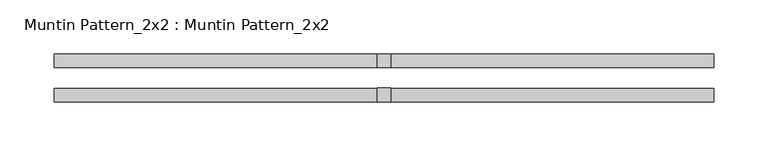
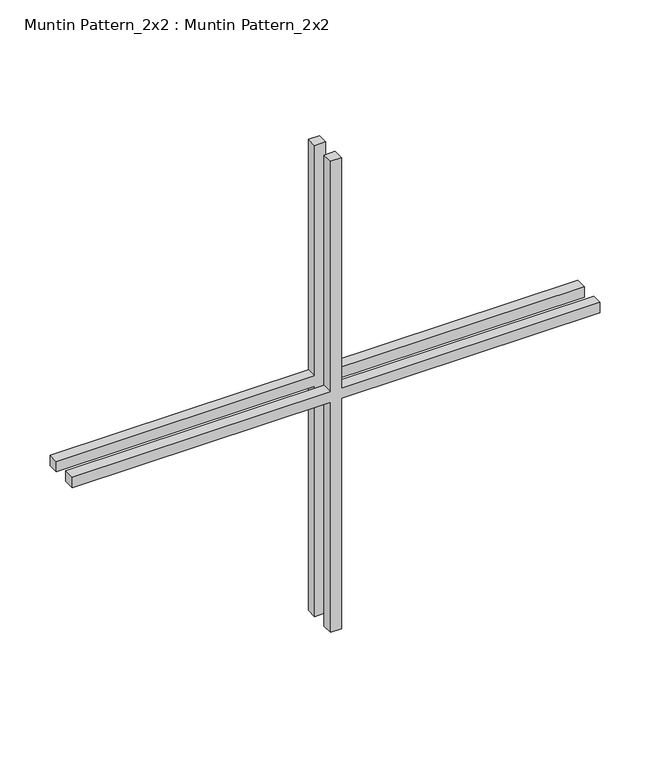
"""IFC4 building model written with IfcOpenShell, lengths in millimetres: proxy geometry, Muntin Pattern_2x2 : Muntin Pattern_2x2."""

import ifcopenshell
import ifcopenshell.guid

model = None  # the IFC model being written
_history = None  # IfcOwnerHistory: only IFC2X3 demands one
_inside = {}  # id of a spatial element -> (the spatial element, [elements in it])
_under = {}  # id of a project, library or spatial element -> (it, [spatial elements below it])
_declared = {}  # id of a project -> (the project, [libraries it declares])
_typed = {}  # id of a type object -> (the type object, [elements of that type])
_made_of = {}  # id of a material, layer set ... -> (it, [elements and type objects made of it])


def new_model(schema):
    """Start an empty IFC model of exactly this schema.

    Asked for "IFC4X3", IfcOpenShell would pick the latest addendum, in which some entities
    have other attributes; the version numbers below select the first issue.
    IFC2X3 requires an IfcOwnerHistory on every rooted entity: one is made here for all.
    """
    global model, _history
    if schema == "IFC4X3":
        model = ifcopenshell.file(schema_version=(4, 3, 0, 0))
    else:
        model = ifcopenshell.file(schema=schema)
    _inside.clear()
    _under.clear()
    _declared.clear()
    _typed.clear()
    _made_of.clear()
    _history = None
    if model.schema == "IFC2X3":
        org = make("IfcOrganization", Name="unknown")
        user = make(
            "IfcPersonAndOrganization",
            ThePerson=make("IfcPerson", FamilyName="unknown"),
            TheOrganization=org,
        )
        app = make(
            "IfcApplication",
            ApplicationDeveloper=org,
            Version="unknown",
            ApplicationFullName="unknown",
            ApplicationIdentifier="unknown",
        )
        _history = make(
            "IfcOwnerHistory",
            OwningUser=user,
            OwningApplication=app,
            ChangeAction="ADDED",
            CreationDate=0,
        )
    return model


def make(cls, **values):
    """One entity of the class cls with the attributes given. An attribute that is None is left unset."""
    return model.create_entity(
        cls, **{name: value for name, value in values.items() if value is not None}
    )


def rooted(cls, **values):
    """An entity with a GlobalId (a new one), such as an element, a storey or a relation."""
    return make(cls, GlobalId=ifcopenshell.guid.new(), OwnerHistory=_history, **values)


def si_unit(unit_type, name, prefix=None):
    """IfcSIUnit, for example si_unit("LENGTHUNIT", "METRE", prefix="MILLI")."""
    return make("IfcSIUnit", UnitType=unit_type, Prefix=prefix, Name=name)


def assignment(units):
    """IfcUnitAssignment: the units of a project."""
    return None if units is None else make("IfcUnitAssignment", Units=units)


def point(xyz):
    """IfcCartesianPoint."""
    return None if xyz is None else make("IfcCartesianPoint", Coordinates=xyz)


def direction(xyz):
    """IfcDirection."""
    return None if xyz is None else make("IfcDirection", DirectionRatios=xyz)


def frame(location, z_axis=None, x_axis=None):
    """IfcAxis2Placement3D, a coordinate frame: its origin and axes. An axis left out is left unset."""
    return make(
        "IfcAxis2Placement3D",
        Location=point(location),
        Axis=direction(z_axis),
        RefDirection=direction(x_axis),
    )


def origin():
    """The frame at (0, 0, 0) with its axes left unset."""
    return frame((0.0, 0.0, 0.0))


def place(relative_to, where):
    """IfcLocalPlacement: puts the frame where relative to a parent placement (None: the world)."""
    return make(
        "IfcLocalPlacement", PlacementRelTo=relative_to, RelativePlacement=where
    )


def context(
    kind, dimensions, precision=None, world=None, true_north=None, identifier=None
):
    """IfcGeometricRepresentationContext, for example the 3D "Model" context."""
    return make(
        "IfcGeometricRepresentationContext",
        ContextIdentifier=identifier,
        ContextType=kind,
        CoordinateSpaceDimension=dimensions,
        Precision=precision,
        WorldCoordinateSystem=world,
        TrueNorth=true_north,
    )


def project(units=None, contexts=None):
    """IfcProject with its units and contexts."""
    return rooted(
        "IfcProject",
        Name="project",
        RepresentationContexts=contexts,
        UnitsInContext=assignment(units),
    )


def spatial(cls, under=None, at=None, **own):
    """A site, building, storey or space (cls), placed at a placement, below another one or the project."""
    s = rooted(cls, ObjectPlacement=at, **own)
    if under is not None:
        _under.setdefault(under.id(), (under, []))[1].append(s)
    return s


def polyline(points):
    """IfcPolyline through the points."""
    return make("IfcPolyline", Points=[point(p) for p in points])


def outline(outer, holes=None, kind="AREA"):
    """IfcArbitraryClosedProfileDef: a profile drawn as a closed curve; with holes, ...WithVoids."""
    if holes is None:
        return make("IfcArbitraryClosedProfileDef", ProfileType=kind, OuterCurve=outer)
    return make(
        "IfcArbitraryProfileDefWithVoids",
        ProfileType=kind,
        OuterCurve=outer,
        InnerCurves=holes,
    )


def extrude(swept, where, along, depth):
    """IfcExtrudedAreaSolid: the profile swept, set in the frame where, extruded along a direction by depth."""
    return make(
        "IfcExtrudedAreaSolid",
        SweptArea=swept,
        Position=where,
        ExtrudedDirection=direction(along),
        Depth=depth,
    )


def shape(context_of_items, identifier, shape_type, items):
    """IfcShapeRepresentation: the items that make up one representation, for example the "Body"."""
    return make(
        "IfcShapeRepresentation",
        ContextOfItems=context_of_items,
        RepresentationIdentifier=identifier,
        RepresentationType=shape_type,
        Items=items,
    )


def source(mapping_origin, context_of_items, identifier, shape_type, items):
    """IfcRepresentationMap: a shape defined once, which mapped items show again and again."""
    return make(
        "IfcRepresentationMap",
        MappingOrigin=mapping_origin,
        MappedRepresentation=shape(context_of_items, identifier, shape_type, items),
    )


def transform(
    local_origin,
    x_axis=None,
    y_axis=None,
    z_axis=None,
    scale=None,
    scale2=None,
    scale3=None,
    uniform=True,
):
    """IfcCartesianTransformationOperator3D, or its non-uniform kind. x_axis, y_axis, z_axis: its Axis1, 2, 3."""
    if uniform:
        return make(
            "IfcCartesianTransformationOperator3D",
            Axis1=direction(x_axis),
            Axis2=direction(y_axis),
            LocalOrigin=point(local_origin),
            Scale=scale,
            Axis3=direction(z_axis),
        )
    return make(
        "IfcCartesianTransformationOperator3DnonUniform",
        Axis1=direction(x_axis),
        Axis2=direction(y_axis),
        LocalOrigin=point(local_origin),
        Scale=scale,
        Axis3=direction(z_axis),
        Scale2=scale2,
        Scale3=scale3,
    )


def mapped(mapping_source, mapping_target):
    """IfcMappedItem: shows the shape of a source again, moved by a transform."""
    return make(
        "IfcMappedItem", MappingSource=mapping_source, MappingTarget=mapping_target
    )


def made_of(thing, what):
    """Note that an element or type object is made of a material, layer set ...; save() writes the relation."""
    if what is not None:
        _made_of.setdefault(what.id(), (what, []))[1].append(thing)
    return thing


def element(
    cls,
    number,
    at=None,
    inside=None,
    cuts=None,
    type_object=None,
    material=None,
    context=None,
    identifier="Body",
    shape_type=None,
    held_by="IfcProductDefinitionShape",
    body=None,
    shapes=None,
    **own,
):
    """One element of the class cls, such as IfcWall. Its Tag is "e" and its number.

    at: its placement. inside: the storey or other place that contains it. cuts: it is an
    opening in that element (IfcRelVoidsElement). A single representation is given by context,
    identifier, shape_type and body (its items); several are given by shapes. held_by: the class
    of the entity that holds the representations. save() writes the other relations.
    """
    e = rooted(cls, Tag="e%d" % number, ObjectPlacement=at, **own)
    if body is not None:
        shapes = [shape(context, identifier, shape_type, body)]
    if shapes is not None:
        e.Representation = make(held_by, Representations=shapes)
    if inside is not None:
        _inside.setdefault(inside.id(), (inside, []))[1].append(e)
    if cuts is not None:
        rooted(
            "IfcRelVoidsElement", RelatingBuildingElement=cuts, RelatedOpeningElement=e
        )
    if type_object is not None:
        _typed.setdefault(type_object.id(), (type_object, []))[1].append(e)
    return made_of(e, material)


def aggregate(whole, parts):
    """IfcRelAggregates: a whole, such as a stair, and the parts it consists of."""
    return rooted("IfcRelAggregates", RelatingObject=whole, RelatedObjects=parts)


def save(model, path):
    """Write the relations noted so far, then the file.

    IfcRelAggregates (storeys below a building ...), IfcRelContainedInSpatialStructure (elements
    in a storey), IfcRelDefinesByType, IfcRelAssociatesMaterial and IfcRelDeclares: one each for
    every whole, place, type object, material and project.
    """
    for whole, parts in _under.values():
        aggregate(whole, parts)
    for where, things in _inside.values():
        rooted(
            "IfcRelContainedInSpatialStructure",
            RelatedElements=things,
            RelatingStructure=where,
        )
    for kind, things in _typed.values():
        rooted("IfcRelDefinesByType", RelatedObjects=things, RelatingType=kind)
    for what, things in _made_of.values():
        rooted("IfcRelAssociatesMaterial", RelatedObjects=things, RelatingMaterial=what)
    for by, libraries in _declared.values():
        rooted("IfcRelDeclares", RelatingContext=by, RelatedDefinitions=libraries)
    model.write(path)


def muntin_pattern_2x2_muntin_pattern_2x2_335bf343(model_context):
    return source(origin(), model_context, "Body", "SweptSolid", [
        extrude(outline(polyline([(293.6875, -6.35), (293.6875, -304.8), (280.9875, -304.8), (280.9875, -6.35), (0.0, -6.35), (0.0, 6.35), (280.9875, 6.35), (280.9875, 304.8), (293.6875, 304.8), (293.6875, 6.35), (574.675, 6.35), (574.675, -6.35), (293.6875, -6.35)])), frame((0.0, 9.525, 0.0), z_axis=(0.0, 1.0, 0.0), x_axis=(0.0, 0.0, 1.0)), (0.0, 0.0, 1.0), 12.7),
        extrude(outline(polyline([(293.6875, -6.35), (293.6875, -304.8), (280.9875, -304.8), (280.9875, -6.35), (0.0, -6.35), (0.0, 6.35), (280.9875, 6.35), (280.9875, 304.8), (293.6875, 304.8), (293.6875, 6.35), (574.675, 6.35), (574.675, -6.35), (293.6875, -6.35)])), frame((0.0, -22.225, 0.0), z_axis=(0.0, 1.0, 0.0), x_axis=(0.0, 0.0, 1.0)), (0.0, 0.0, 1.0), 12.7),
    ])


if __name__ == "__main__":
    model = new_model("IFC4")
    model_context = context("Model", 3, world=origin())
    ifc_project = project(units=[si_unit("LENGTHUNIT", "METRE", prefix="MILLI")], contexts=[model_context])
    site = spatial("IfcSite", under=ifc_project)
    building = spatial("IfcBuilding", under=site)
    placement = place(None, origin())
    muntin_pattern_2x2_muntin_pattern_2x2_shape = muntin_pattern_2x2_muntin_pattern_2x2_335bf343(model_context)
    element("IfcBuildingElementProxy", 1, Name="Muntin Pattern_2x2 : Muntin Pattern_2x2", ObjectType="Muntin Pattern_2x2 : Muntin Pattern_2x2", at=placement, inside=building, context=model_context, shape_type="MappedRepresentation", body=[
        mapped(muntin_pattern_2x2_muntin_pattern_2x2_shape, transform((0.0, 0.0, 0.0), x_axis=(1.0, 0.0, 0.0), y_axis=(0.0, 1.0, 0.0), z_axis=(0.0, 0.0, 1.0))),
    ])
    save(model, "model.ifc")
